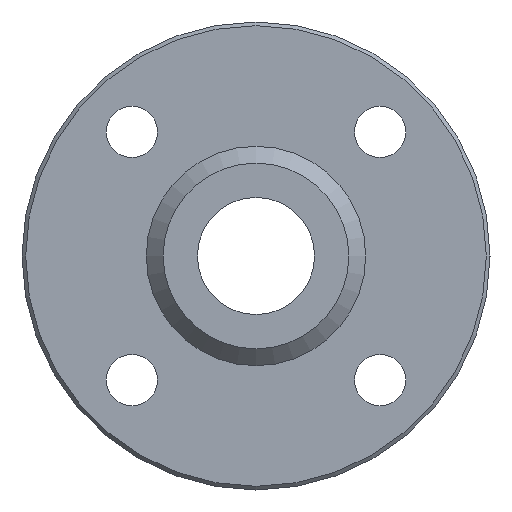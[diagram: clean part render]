
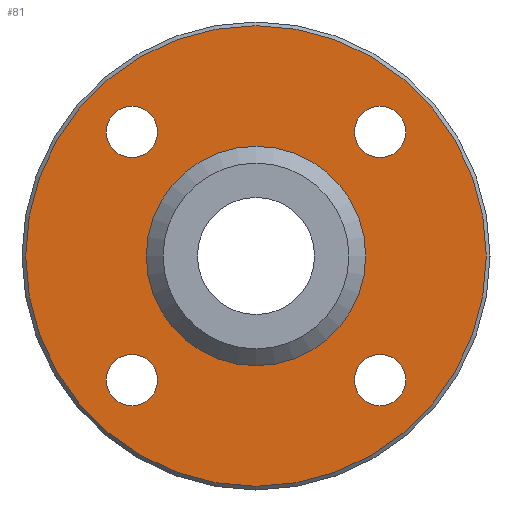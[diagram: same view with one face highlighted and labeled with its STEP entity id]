
A CAD part, left-side view. The second image highlights one B-rep face of the part: STEP entity #81.
In plain terms, the highlighted planar face has unit normal (-1, 0, 0).
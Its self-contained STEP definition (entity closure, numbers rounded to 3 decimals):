
#81=ADVANCED_FACE('',(#115,#116,#117,#118,#119,#120),#121,.T.);
#115=FACE_OUTER_BOUND('',#186,.T.);
#116=FACE_BOUND('',#187,.T.);
#117=FACE_BOUND('',#188,.T.);
#118=FACE_BOUND('',#189,.T.);
#119=FACE_BOUND('',#190,.T.);
#120=FACE_BOUND('',#191,.T.);
#121=PLANE('',#192);
#186=EDGE_LOOP('',(#269));
#187=EDGE_LOOP('',(#270));
#188=EDGE_LOOP('',(#271));
#189=EDGE_LOOP('',(#272));
#190=EDGE_LOOP('',(#273));
#191=EDGE_LOOP('',(#274));
#192=AXIS2_PLACEMENT_3D('',#275,#276,#277);
#269=ORIENTED_EDGE('',*,*,#360,.T.);
#270=ORIENTED_EDGE('',*,*,#361,.F.);
#271=ORIENTED_EDGE('',*,*,#362,.F.);
#272=ORIENTED_EDGE('',*,*,#363,.F.);
#273=ORIENTED_EDGE('',*,*,#364,.F.);
#274=ORIENTED_EDGE('',*,*,#359,.F.);
#275=CARTESIAN_POINT('',(-8.0,7.5,0.0));
#276=DIRECTION('',(-1.0,0.0,0.0));
#277=DIRECTION('',(0.0,0.0,1.0));
#359=EDGE_CURVE('',#391,#391,#392,.T.);
#360=EDGE_CURVE('',#393,#393,#394,.T.);
#361=EDGE_CURVE('',#395,#395,#396,.T.);
#362=EDGE_CURVE('',#397,#397,#398,.T.);
#363=EDGE_CURVE('',#399,#399,#400,.T.);
#364=EDGE_CURVE('',#401,#401,#402,.T.);
#391=VERTEX_POINT('',#441);
#392=CIRCLE('',#442,7.5);
#393=VERTEX_POINT('',#443);
#394=CIRCLE('',#444,15.746);
#395=VERTEX_POINT('',#445);
#396=CIRCLE('',#446,1.75);
#397=VERTEX_POINT('',#447);
#398=CIRCLE('',#448,1.75);
#399=VERTEX_POINT('',#449);
#400=CIRCLE('',#450,1.75);
#401=VERTEX_POINT('',#451);
#402=CIRCLE('',#452,1.75);
#441=CARTESIAN_POINT('',(-8.0,0.,7.5));
#442=AXIS2_PLACEMENT_3D('',#498,#499,#500);
#443=CARTESIAN_POINT('',(-8.0,0.,15.746));
#444=AXIS2_PLACEMENT_3D('',#501,#502,#503);
#445=CARTESIAN_POINT('',(-8.0,8.485,10.235));
#446=AXIS2_PLACEMENT_3D('',#504,#505,#506);
#447=CARTESIAN_POINT('',(-8.0,-8.485,10.235));
#448=AXIS2_PLACEMENT_3D('',#507,#508,#509);
#449=CARTESIAN_POINT('',(-8.0,-8.485,-6.735));
#450=AXIS2_PLACEMENT_3D('',#510,#511,#512);
#451=CARTESIAN_POINT('',(-8.0,8.485,-6.735));
#452=AXIS2_PLACEMENT_3D('',#513,#514,#515);
#498=CARTESIAN_POINT('',(-8.0,0.,0.0));
#499=DIRECTION('',(-1.0,0.0,0.0));
#500=DIRECTION('',(0.0,0.0,1.0));
#501=CARTESIAN_POINT('',(-8.0,0.,0.0));
#502=DIRECTION('',(-1.0,0.0,0.0));
#503=DIRECTION('',(0.0,0.0,1.0));
#504=CARTESIAN_POINT('',(-8.0,8.485,8.485));
#505=DIRECTION('',(-1.0,0.0,0.0));
#506=DIRECTION('',(0.0,0.0,1.0));
#507=CARTESIAN_POINT('',(-8.0,-8.485,8.485));
#508=DIRECTION('',(-1.0,0.0,0.0));
#509=DIRECTION('',(0.0,0.0,1.0));
#510=CARTESIAN_POINT('',(-8.0,-8.485,-8.485));
#511=DIRECTION('',(-1.0,0.0,0.0));
#512=DIRECTION('',(0.0,0.0,1.0));
#513=CARTESIAN_POINT('',(-8.0,8.485,-8.485));
#514=DIRECTION('',(-1.0,0.0,0.0));
#515=DIRECTION('',(0.0,0.0,1.0));
